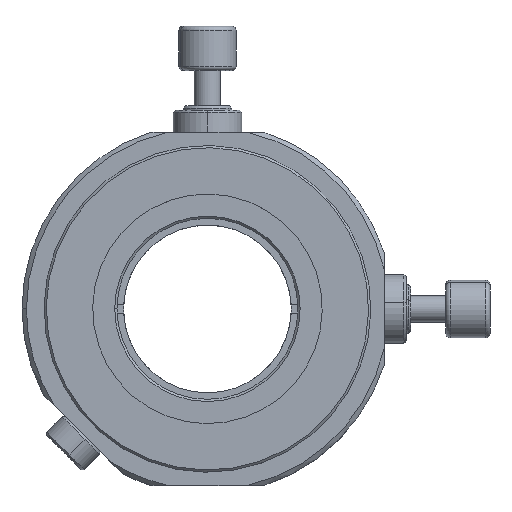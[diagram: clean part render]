
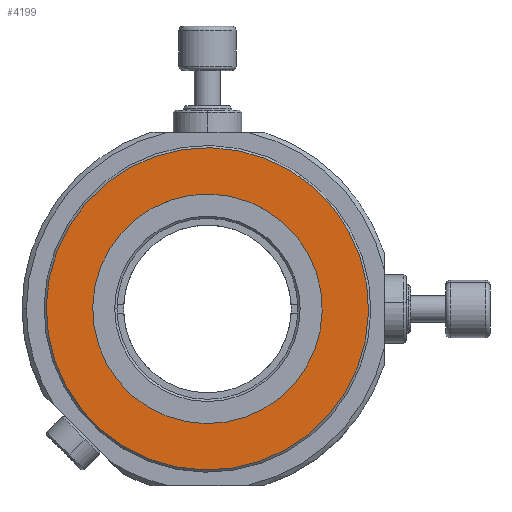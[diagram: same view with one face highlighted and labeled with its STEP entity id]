
A CAD part, top view. The second image highlights one B-rep face of the part: STEP entity #4199.
In plain terms, the highlighted planar face has unit normal (0, 0, 1).
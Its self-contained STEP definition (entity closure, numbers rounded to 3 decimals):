
#643 = AXIS2_PLACEMENT_3D ( 'NONE', #6543, #4891, #5461 ) ;
#765 = AXIS2_PLACEMENT_3D ( 'NONE', #6437, #5873, #5335 ) ;
#805 = EDGE_LOOP ( 'NONE', ( #3037, #1401 ) ) ;
#1357 = CIRCLE ( 'NONE', #643, 36.5 ) ;
#1401 = ORIENTED_EDGE ( 'NONE', *, *, #6935, .T. ) ;
#1523 = CARTESIAN_POINT ( 'NONE',  ( -11.125, 22.563, 26. ) ) ;
#1789 = DIRECTION ( 'NONE',  ( 0., 0., 1. ) ) ;
#2036 = ORIENTED_EDGE ( 'NONE', *, *, #2299, .T. ) ;
#2089 = FACE_OUTER_BOUND ( 'NONE', #2343, .T. ) ;
#2195 = FACE_BOUND ( 'NONE', #805, .T. ) ;
#2299 = EDGE_CURVE ( 'NONE', #7156, #5417, #1357, .T. ) ;
#2340 = CARTESIAN_POINT ( 'NONE',  ( 19.035, -32.178, 26. ) ) ;
#2343 = EDGE_LOOP ( 'NONE', ( #6229, #2036 ) ) ;
#2368 = CARTESIAN_POINT ( 'NONE',  ( 1.422, -0.209, 26. ) ) ;
#2953 = CARTESIAN_POINT ( 'NONE',  ( 1.422, -0.209, 26. ) ) ;
#3037 = ORIENTED_EDGE ( 'NONE', *, *, #3116, .T. ) ;
#3116 = EDGE_CURVE ( 'NONE', #3380, #6244, #4080, .T. ) ;
#3380 = VERTEX_POINT ( 'NONE', #1523 ) ;
#3509 = DIRECTION ( 'NONE',  ( -0.483, 0.876, 0. ) ) ;
#4080 = CIRCLE ( 'NONE', #4696, 26. ) ;
#4199 = ADVANCED_FACE ( 'NONE', ( #2089, #2195 ), #7033, .F. ) ;
#4219 = DIRECTION ( 'NONE',  ( -0.483, 0.876, 0. ) ) ;
#4241 = CARTESIAN_POINT ( 'NONE',  ( 13.968, -22.982, 26. ) ) ;
#4488 = CIRCLE ( 'NONE', #4907, 26. ) ;
#4696 = AXIS2_PLACEMENT_3D ( 'NONE', #2368, #5204, #5275 ) ;
#4891 = DIRECTION ( 'NONE',  ( 0., 0., 1. ) ) ;
#4907 = AXIS2_PLACEMENT_3D ( 'NONE', #5934, #6575, #4219 ) ;
#5083 = EDGE_CURVE ( 'NONE', #5417, #7156, #6962, .T. ) ;
#5204 = DIRECTION ( 'NONE',  ( 0., 0., -1. ) ) ;
#5275 = DIRECTION ( 'NONE',  ( -0.483, 0.876, 0. ) ) ;
#5335 = DIRECTION ( 'NONE',  ( -0.483, 0.876, 0. ) ) ;
#5417 = VERTEX_POINT ( 'NONE', #7161 ) ;
#5461 = DIRECTION ( 'NONE',  ( -0.483, 0.876, 0. ) ) ;
#5487 = AXIS2_PLACEMENT_3D ( 'NONE', #2953, #1789, #3509 ) ;
#5873 = DIRECTION ( 'NONE',  ( 0., 0., -1. ) ) ;
#5934 = CARTESIAN_POINT ( 'NONE',  ( 1.422, -0.209, 26. ) ) ;
#6229 = ORIENTED_EDGE ( 'NONE', *, *, #5083, .T. ) ;
#6244 = VERTEX_POINT ( 'NONE', #4241 ) ;
#6437 = CARTESIAN_POINT ( 'NONE',  ( 1.422, -0.209, 26. ) ) ;
#6543 = CARTESIAN_POINT ( 'NONE',  ( 1.422, -0.209, 26. ) ) ;
#6575 = DIRECTION ( 'NONE',  ( 0., 0., -1. ) ) ;
#6935 = EDGE_CURVE ( 'NONE', #6244, #3380, #4488, .T. ) ;
#6962 = CIRCLE ( 'NONE', #5487, 36.5 ) ;
#7033 = PLANE ( 'NONE',  #765 ) ;
#7156 = VERTEX_POINT ( 'NONE', #2340 ) ;
#7161 = CARTESIAN_POINT ( 'NONE',  ( -16.192, 31.759, 26. ) ) ;
